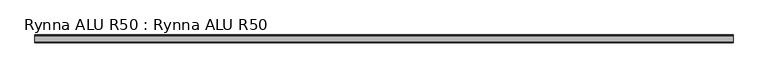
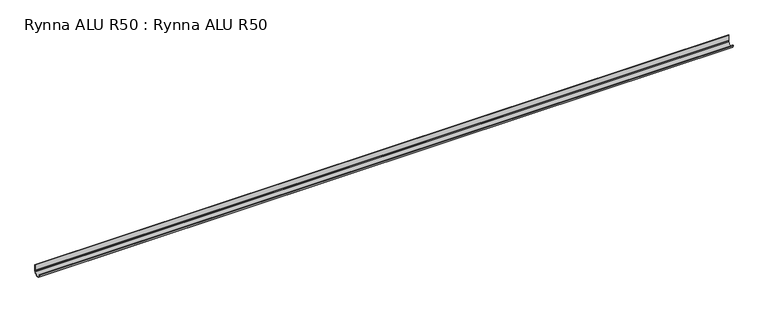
"""IFC4 building model written with IfcOpenShell, lengths in millimetres: proxy geometry, Rynna ALU R50 : Rynna ALU R50."""

from ifc_helpers import new_model, si_unit, point, frame, frame_2d, origin, place, context, project, spatial, polyline, circle_curve, trimmed, segment, composite_curve, outline, extrude, source, transform, mapped, element, save


def rynna_alu_r50_rynna_alu_r50_76c79ff7(model_context):
    return source(origin(), model_context, "Body", "SweptSolid", [
        extrude(outline(composite_curve([segment(polyline([(0.6978396, 0.0), (0.6978396, -39.5252625), (-1.8149767, -41.8701356), (-2.328284, -45.5225054), (0.9565767, -44.1281649), (0.1767814, -46.0765907), (-2.6292486, -47.6619658)]), True, "CONTINUOUS"), segment(trimmed(circle_curve(frame_2d((-27.3646611, -44.302303)), 24.9625312), [point((-2.6292486, -47.6619658))], [point((-52.3271923, -44.302303))], False, "CARTESIAN"), True, "CONTINUOUS"), segment(trimmed(circle_curve(frame_2d((-50.3771937, -44.3000011)), 1.95), [point((-52.3271923, -44.302303))], [point((-50.8512717, -46.1914952))], False, "CARTESIAN"), True, "CONTINUOUS"), segment(trimmed(circle_curve(frame_2d((-27.3646611, -44.302303)), 23.5624686), [point((-50.8512717, -46.1914952))], [point((-3.9370468, -46.8196069))], True, "CARTESIAN"), True, "CONTINUOUS"), segment(polyline([(-3.9370468, -46.8196069), (-3.0707013, -41.065916), (-0.7021617, -38.7702547), (-0.7021617, 0.0), (0.6978396, 0.0)]), True, "CONTINUOUS")], self_intersect=False)), frame((-2353.4168155, 0.0, 0.0), z_axis=(1.0, 0.0, 0.0), x_axis=(0.0, 1.0, 0.0)), (0.0, 0.0, 1.0), 4706.833631),
    ])


if __name__ == "__main__":
    model = new_model("IFC4")
    model_context = context("Model", 3, world=origin())
    ifc_project = project(units=[si_unit("LENGTHUNIT", "METRE", prefix="MILLI")], contexts=[model_context])
    site = spatial("IfcSite", under=ifc_project)
    building = spatial("IfcBuilding", under=site)
    placement = place(None, origin())
    rynna_alu_r50_rynna_alu_r50_shape = rynna_alu_r50_rynna_alu_r50_76c79ff7(model_context)
    element("IfcBuildingElementProxy", 1, Name="Rynna ALU R50 : Rynna ALU R50", ObjectType="Rynna ALU R50 : Rynna ALU R50", at=placement, inside=building, context=model_context, shape_type="MappedRepresentation", body=[
        mapped(rynna_alu_r50_rynna_alu_r50_shape, transform((0.0, 0.0, 0.0), x_axis=(1.0, 0.0, 0.0), y_axis=(0.0, 1.0, 0.0), z_axis=(0.0, 0.0, 1.0))),
    ])
    save(model, "model.ifc")
